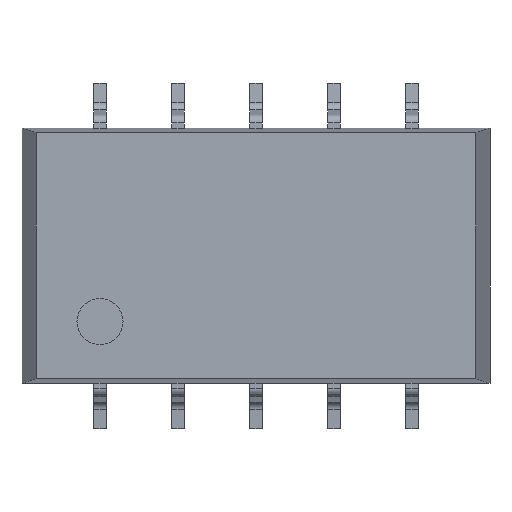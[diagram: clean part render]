
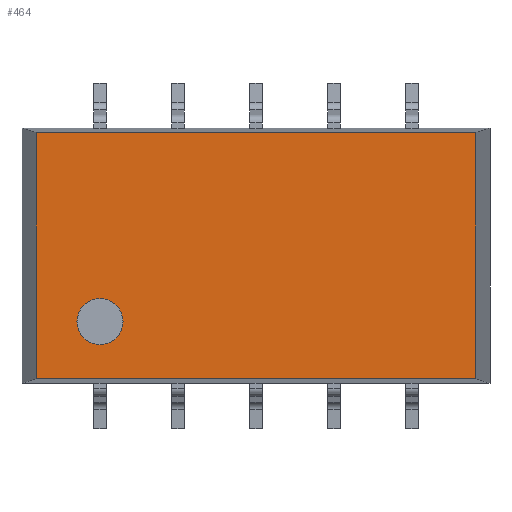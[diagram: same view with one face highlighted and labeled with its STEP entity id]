
A CAD part, top view. The second image highlights one B-rep face of the part: STEP entity #464.
In plain terms, the highlighted planar face has unit normal (0, 0, 1).
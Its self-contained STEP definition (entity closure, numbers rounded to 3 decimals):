
#16 = CARTESIAN_POINT ( 'NONE',  ( 7.15, -4., 5.8 ) ) ;
#74 = CARTESIAN_POINT ( 'NONE',  ( -5.83, -2.15, 5.8 ) ) ;
#145 = PLANE ( 'NONE',  #1891 ) ;
#178 = VERTEX_POINT ( 'NONE', #5182 ) ;
#218 = CARTESIAN_POINT ( 'NONE',  ( 0., 4., 5.8 ) ) ;
#446 = LINE ( 'NONE', #6119, #2848 ) ;
#464 = ADVANCED_FACE ( 'NONE', ( #3334, #787 ), #145, .T. ) ;
#538 = CARTESIAN_POINT ( 'NONE',  ( -5.08, -2.15, 5.8 ) ) ;
#644 = CARTESIAN_POINT ( 'NONE',  ( -7.15, -4., 5.8 ) ) ;
#682 = DIRECTION ( 'NONE',  ( -1., 0., 0. ) ) ;
#787 = FACE_OUTER_BOUND ( 'NONE', #3154, .T. ) ;
#986 = DIRECTION ( 'NONE',  ( 0., -1., 0. ) ) ;
#1020 = DIRECTION ( 'NONE',  ( -1., 0., 0. ) ) ;
#1185 = VECTOR ( 'NONE', #682, 1000. ) ;
#1349 = AXIS2_PLACEMENT_3D ( 'NONE', #2462, #5775, #2921 ) ;
#1402 = VECTOR ( 'NONE', #3554, 1000. ) ;
#1410 = ORIENTED_EDGE ( 'NONE', *, *, #1967, .T. ) ;
#1489 = CARTESIAN_POINT ( 'NONE',  ( 0., 0., 5.8 ) ) ;
#1824 = CARTESIAN_POINT ( 'NONE',  ( -7.15, 4., 5.8 ) ) ;
#1847 = CARTESIAN_POINT ( 'NONE',  ( 7.15, 4., 5.8 ) ) ;
#1891 = AXIS2_PLACEMENT_3D ( 'NONE', #1489, #4339, #986 ) ;
#1967 = EDGE_CURVE ( 'NONE', #2671, #2457, #5196, .T. ) ;
#1980 = AXIS2_PLACEMENT_3D ( 'NONE', #538, #3884, #1020 ) ;
#2171 = VECTOR ( 'NONE', #2490, 1000. ) ;
#2366 = EDGE_CURVE ( 'NONE', #2457, #4752, #446, .T. ) ;
#2457 = VERTEX_POINT ( 'NONE', #16 ) ;
#2462 = CARTESIAN_POINT ( 'NONE',  ( -5.08, -2.15, 5.8 ) ) ;
#2475 = CIRCLE ( 'NONE', #1349, 0.75 ) ;
#2479 = EDGE_CURVE ( 'NONE', #2540, #178, #2475, .T. ) ;
#2481 = EDGE_CURVE ( 'NONE', #178, #2540, #3734, .T. ) ;
#2490 = DIRECTION ( 'NONE',  ( 0., -1., 0. ) ) ;
#2540 = VERTEX_POINT ( 'NONE', #74 ) ;
#2598 = EDGE_CURVE ( 'NONE', #4742, #2671, #5961, .T. ) ;
#2671 = VERTEX_POINT ( 'NONE', #644 ) ;
#2717 = EDGE_CURVE ( 'NONE', #4752, #4742, #6116, .T. ) ;
#2848 = VECTOR ( 'NONE', #5676, 1000. ) ;
#2921 = DIRECTION ( 'NONE',  ( -1., 0., 0. ) ) ;
#3154 = EDGE_LOOP ( 'NONE', ( #5801, #5280, #1410, #3416 ) ) ;
#3334 = FACE_BOUND ( 'NONE', #5828, .T. ) ;
#3416 = ORIENTED_EDGE ( 'NONE', *, *, #2366, .T. ) ;
#3554 = DIRECTION ( 'NONE',  ( 1., 0., 0. ) ) ;
#3734 = CIRCLE ( 'NONE', #1980, 0.75 ) ;
#3884 = DIRECTION ( 'NONE',  ( 0., 0., -1. ) ) ;
#4203 = CARTESIAN_POINT ( 'NONE',  ( 0., -4., 5.8 ) ) ;
#4339 = DIRECTION ( 'NONE',  ( 0., 0., 1. ) ) ;
#4742 = VERTEX_POINT ( 'NONE', #1824 ) ;
#4752 = VERTEX_POINT ( 'NONE', #1847 ) ;
#4845 = CARTESIAN_POINT ( 'NONE',  ( -7.15, 0., 5.8 ) ) ;
#5182 = CARTESIAN_POINT ( 'NONE',  ( -4.33, -2.15, 5.8 ) ) ;
#5196 = LINE ( 'NONE', #4203, #1402 ) ;
#5280 = ORIENTED_EDGE ( 'NONE', *, *, #2598, .T. ) ;
#5330 = ORIENTED_EDGE ( 'NONE', *, *, #2481, .T. ) ;
#5614 = ORIENTED_EDGE ( 'NONE', *, *, #2479, .T. ) ;
#5676 = DIRECTION ( 'NONE',  ( 0., 1., 0. ) ) ;
#5775 = DIRECTION ( 'NONE',  ( 0., 0., -1. ) ) ;
#5801 = ORIENTED_EDGE ( 'NONE', *, *, #2717, .T. ) ;
#5828 = EDGE_LOOP ( 'NONE', ( #5614, #5330 ) ) ;
#5961 = LINE ( 'NONE', #4845, #2171 ) ;
#6116 = LINE ( 'NONE', #218, #1185 ) ;
#6119 = CARTESIAN_POINT ( 'NONE',  ( 7.15, 0., 5.8 ) ) ;
